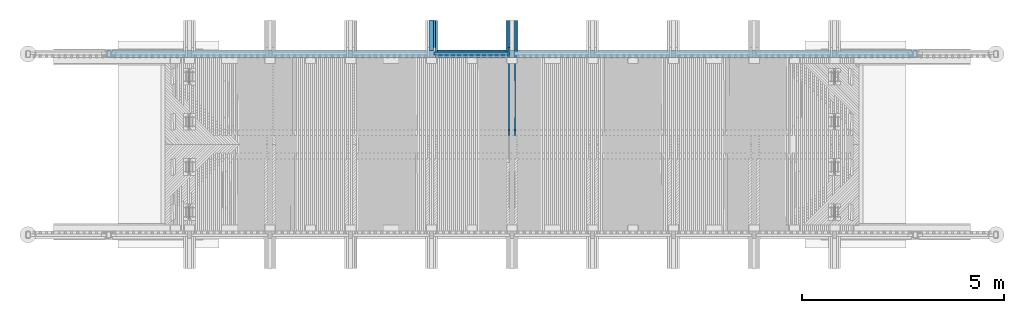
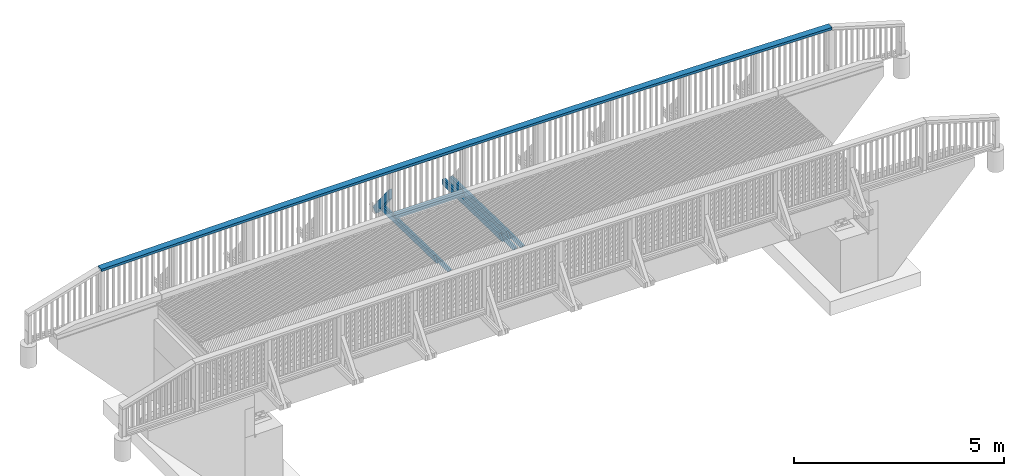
# One storey, part 37 of 53: 11 beams, 1 member.
"""IFC2X3 building model written with IfcOpenShell, lengths in millimetres."""

from ifc_helpers import new_model, si_unit, frame, origin_with_axes, place, context, subcontext, project, spatial, faceted_brep, material, type_object, element, save


model = new_model("IFC2X3")

# Units and contexts
model_context = context("Model", 3, precision=1e-05, world=origin_with_axes())
body_context = subcontext(model_context, "Body", "Model", "MODEL_VIEW")
ifc_project = project(units=[si_unit("LENGTHUNIT", "METRE", prefix="MILLI"), si_unit("AREAUNIT", "SQUARE_METRE"), si_unit("VOLUMEUNIT", "CUBIC_METRE"), si_unit("MASSUNIT", "GRAM", prefix="KILO"), si_unit("TIMEUNIT", "SECOND"), si_unit("PLANEANGLEUNIT", "RADIAN"), si_unit("SOLIDANGLEUNIT", "STERADIAN"), si_unit("THERMODYNAMICTEMPERATUREUNIT", "DEGREE_CELSIUS"), si_unit("LUMINOUSINTENSITYUNIT", "LUMEN")], contexts=[model_context])

# Site, building, storey
site_placement = place(None, origin_with_axes())
site = spatial("IfcSite", under=ifc_project, at=site_placement, Name="Undefined", CompositionType="ELEMENT")
building_placement = place(site_placement, origin_with_axes())
building = spatial("IfcBuilding", under=site, at=building_placement, Name="Undefined", CompositionType="ELEMENT")
storey_placement = place(building_placement, origin_with_axes())
storey = spatial("IfcBuildingStorey", under=building, at=storey_placement, Name="Undefined", CompositionType="ELEMENT", Elevation=0.0)

# Member
ifc_material = material(Name="TIMBER/Timber_Undefined")
member_type = type_object("IfcMemberType", Name="180*100", PredefinedType="NOTDEFINED")
member_placement = place(storey_placement, frame((6000.00641464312, 45378.7683991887, 2950.63480496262), z_axis=(0.0, 0.783926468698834, 0.620853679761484), x_axis=(-4.01699999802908e-06, -0.620853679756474, 0.78392646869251)))
element("IfcMember", 1, at=member_placement, inside=storey, type_object=member_type, material=ifc_material, Name="KAIDEPYLVÄS", ObjectType="180*100", context=body_context, shape_type="Brep", body=[
    faceted_brep([(0.0, 50.0, -89.9999999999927), (0.0, 50.0, 90.0), (1214.99440716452, 50.0, 90.0000000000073), (987.715792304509, 50.0, -89.9999999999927), (0.0, -49.9999999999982, 90.0000000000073), (1214.99480886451, -50.0, 90.0000000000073), (-3.63797880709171e-12, -49.9999999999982, -90.0), (987.716194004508, -49.9999999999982, -89.9999999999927)], [[[0, 1, 2, 3]], [[1, 4, 5, 2]], [[4, 6, 7, 5]], [[6, 0, 3, 7]], [[5, 7, 3, 2]], [[6, 4, 1, 0]]]),
])

# Beams
beam_type_1 = type_object("IfcBeamType", Name="70*70", PredefinedType="NOTDEFINED")
for number, where, z_axis, x_axis, name in (
    (2, (6060.06112513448, 44619.9899854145, 3259.99442729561), (0.0, 1.0, 0.0), (0.999998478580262, 0.0, 0.00174437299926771), "BEAM"),
    (3, (6060.06112513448, 44619.9899854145, 4524.99442729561), (0.0, 1.0, 0.0), (0.999998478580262, 0.0, 0.00174437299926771), "BEAM"),
):
    element("IfcBeam", number, at=place(storey_placement, frame(where, z_axis=z_axis, x_axis=x_axis)), inside=storey, type_object=beam_type_1, material=ifc_material, Name=name, ObjectType="70*70", context=body_context, shape_type="Brep", body=[
        faceted_brep([(-3.63797880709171e-12, 35.0000000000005, -35.0), (-3.63797880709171e-12, 35.0000000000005, 35.0), (1880.00289069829, 35.0, 35.0), (1880.00289069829, 35.0, -35.0), (-3.63797880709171e-12, -34.9999999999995, 35.0), (1880.00289069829, -35.0000000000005, 35.0), (-3.63797880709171e-12, -34.9999999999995, -35.0), (1880.00289069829, -35.0000000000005, -35.0)], [[[0, 1, 2, 3]], [[1, 4, 5, 2]], [[4, 6, 7, 5]], [[6, 0, 3, 7]], [[5, 7, 3, 2]], [[6, 4, 1, 0]]]),
    ])
beam_type_2 = type_object("IfcBeamType", Name="195*40", PredefinedType="NOTDEFINED")
beam_1_placement = place(storey_placement, frame((6059.30077842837, 44612.4899854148, 3205.00226514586), z_axis=(0.0, 1.0, 0.0), x_axis=(0.999998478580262, 0.0, 0.00174437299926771)))
element("IfcBeam", 4, at=beam_1_placement, inside=storey, type_object=beam_type_2, material=ifc_material, Name="BEAM", ObjectType="195*40", context=body_context, shape_type="Brep", body=[
    faceted_brep([(0.0, 20.0, -97.5), (0.0, 20.0, 97.5), (1880.22135781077, 19.9999999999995, 97.5), (1880.22135781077, 19.9999999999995, -97.5), (3.63797880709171e-12, -20.0, 97.5), (1880.22135781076, -20.0000000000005, 97.5), (3.63797880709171e-12, -20.0, -97.5), (1880.22135781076, -20.0000000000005, -97.5)], [[[0, 1, 2, 3]], [[1, 4, 5, 2]], [[4, 6, 7, 5]], [[6, 0, 3, 7]], [[5, 7, 3, 2]], [[6, 4, 1, 0]]]),
])
beam_type_3 = type_object("IfcBeamType", Name="180*70", PredefinedType="NOTDEFINED")
beam_2_placement = place(storey_placement, frame((-2050.58316541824, 44604.987908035, 4514.55540579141), z_axis=(0.0, 1.0, 0.0), x_axis=(1.0, 0.0, 0.0)))
element("IfcBeam", 5, at=beam_2_placement, inside=storey, type_object=beam_type_3, material=ifc_material, Name="YLÄJOHDE", ObjectType="180*70", context=body_context, shape_type="Brep", body=[
    faceted_brep([(402.548160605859, 28.4307633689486, 90.0), (402.548160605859, 28.4307633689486, -90.0), (9.58316613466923, 34.8481648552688, -90.0), (9.58316613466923, 34.8481648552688, 90.0), (401.428487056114, -41.5602812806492, -90.0), (9.58316627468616, -35.1611648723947, -90.0), (401.428487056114, -41.5602812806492, 90.0), (9.58316627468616, -35.1611648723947, 90.0), (803.444421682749, -47.8574786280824, 90.0), (804.517445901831, 22.1342967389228, 90.0), (804.517445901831, 22.1342967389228, -90.0), (803.444421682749, -47.8574786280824, -90.0), (1205.46446410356, -53.8867306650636, -90.0), (1205.46446410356, -53.8867306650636, 90.0), (1206.49083851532, 16.105744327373, 90.0), (1206.49083851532, 16.105744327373, -90.0), (1608.46815988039, 10.3451088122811, -90.0), (1607.4884357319, -59.6480347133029, -90.0), (1607.4884357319, -59.6480347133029, 90.0), (1608.46815988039, 10.3451088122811, 90.0), (2010.44923142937, 4.85239275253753, 90.0), (2010.44923142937, 4.85239275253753, -90.0), (2009.51615797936, -65.1413882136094, -90.0), (2009.51615797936, -65.1413882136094, 90.0), (2411.54745225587, -70.3667887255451, 90.0), (2412.43387459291, -0.372401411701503, 90.0), (2412.43387459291, -0.372401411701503, -90.0), (2411.54745225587, -70.3667887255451, -90.0), (2813.58213996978, -75.3242339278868, -90.0), (2813.58213996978, -75.3242339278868, 90.0), (2814.42191080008, -5.32927135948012, 90.0), (2814.42191080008, -5.32927135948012, -90.0), (3216.41316147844, -10.0182148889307, -90.0), (3215.62004252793, -80.0137216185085, -90.0), (3215.62004252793, -80.0137216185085, 90.0), (3216.41316147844, -10.0182148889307, 90.0), (3618.40744805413, -14.4392299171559, 90.0), (3618.40744805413, -14.4392299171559, -90.0), (3617.66098133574, -84.4352497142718, -90.0), (3617.66098133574, -84.4352497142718, 90.0), (4019.70477779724, -88.5888162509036, 90.0), (4020.40459195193, -18.5923144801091, 90.0), (4020.40459195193, -18.5923144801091, -90.0), (4019.70477779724, -88.5888162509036, -90.0), (4421.75125331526, -92.4744193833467, -90.0), (4421.75125331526, -92.4744193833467, 90.0), (4422.40441459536, -22.4774667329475, 90.0), (4422.40441459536, -22.4774667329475, -90.0), (4824.40673740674, -26.0946849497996, -90.0), (4823.80022929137, -96.0920573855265, -90.0), (4823.80022929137, -96.0920573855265, 90.0), (4824.40673740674, -26.0946849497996, 90.0), (5226.4113818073, -29.4439675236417, 90.0), (5226.4113818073, -29.4439675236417, -90.0), (5225.85152712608, -99.4417286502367, -90.0), (5225.85152712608, -99.4417286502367, 90.0), (5627.90496821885, -102.523431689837, 90.0), (5628.41816921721, -32.5253129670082, 90.0), (5628.41816921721, -32.5253129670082, -90.0), (5627.90496821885, -102.523431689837, -90.0), (6029.96037396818, -105.337165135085, -90.0), (6029.96037396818, -105.337165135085, 90.0), (6030.4269210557, -35.3387199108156, 90.0), (6030.4269210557, -35.3387199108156, -90.0), (6432.43745874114, -37.8841871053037, -90.0), (6432.01756577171, -107.882927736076, -90.0), (6432.01756577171, -107.882927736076, 90.0), (6432.43745874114, -37.8841871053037, 90.0), (6834.4496036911, -40.1617134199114, 90.0), (6834.4496036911, -40.1617134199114, -90.0), (6834.07636502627, -110.160718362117, -90.0), (6834.07636502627, -110.160718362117, 90.0), (7236.136593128, -112.170536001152, 90.0), (7236.46317732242, -42.1712978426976, 90.0), (7236.46317732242, -42.1712978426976, -90.0), (7236.136593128, -112.170536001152, -90.0), (7638.19807147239, -113.912379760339, -90.0), (7638.19807147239, -113.912379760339, 90.0), (7638.47800105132, -43.9129394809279, 90.0), (7638.47800105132, -43.9129394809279, -90.0), (8040.49389629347, -45.3866375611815, -90.0), (8040.26062145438, -115.38624886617, -90.0), (8040.26062145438, -115.38624886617, 90.0), (8040.49389629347, -45.3866375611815, 90.0), (8442.51068446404, -46.5923914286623, 90.0), (8442.51068446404, -46.5923914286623, -90.0), (8442.32406446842, -116.592142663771, -90.0), (8442.32406446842, -116.592142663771, 90.0), (8844.38822190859, -117.530060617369, 90.0), (8844.52818697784, -47.530200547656, 90.0), (8844.52818697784, -47.530200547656, -90.0), (8844.38822190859, -117.530060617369, -90.0), (9246.45291516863, -118.200002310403, -90.0), (9246.45291516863, -118.200002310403, 90.0), (9246.54622524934, -48.2000645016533, 90.0), (9246.54622524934, -48.2000645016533, -90.0), (9648.56462069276, -48.6019829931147, -90.0), (9648.51796564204, -118.601967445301, -90.0), (9648.51796564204, -118.601967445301, 90.0), (9648.56462069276, -48.6019829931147, 90.0), (10050.5831947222, -48.7359558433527, 90.0), (10050.5831947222, -48.7359558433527, -90.0), (10050.5831947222, -118.735955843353, -90.0), (10050.5831947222, -118.735955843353, 90.0), (10452.6484238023, -118.601967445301, 90.0), (10452.6017687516, -48.6019829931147, 90.0), (10452.6017687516, -48.6019829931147, -90.0), (10452.6484238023, -118.601967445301, -90.0), (10854.7134742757, -118.200002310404, -90.0), (10854.7134742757, -118.200002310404, 90.0), (10854.620164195, -48.2000645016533, 90.0), (10854.620164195, -48.2000645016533, -90.0), (11256.6382024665, -47.530200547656, -90.0), (11256.7781675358, -117.530060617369, -90.0), (11256.7781675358, -117.530060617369, 90.0), (11256.6382024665, -47.530200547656, 90.0), (11658.6557049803, -46.5923914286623, 90.0), (11658.6557049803, -46.5923914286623, -90.0), (11658.8423249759, -116.592142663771, -90.0), (11658.8423249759, -116.592142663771, 90.0), (12060.90576799, -115.386248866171, 90.0), (12060.6724931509, -45.3866375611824, 90.0), (12060.6724931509, -45.3866375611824, -90.0), (12060.90576799, -115.386248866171, -90.0), (12462.968317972, -113.912379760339, -90.0), (12462.968317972, -113.912379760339, 90.0), (12462.688388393, -43.9129394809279, 90.0), (12462.688388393, -43.9129394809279, -90.0), (12864.7032121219, -42.1712978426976, -90.0), (12865.0297963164, -112.170536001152, -90.0), (12865.0297963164, -112.170536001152, 90.0), (12864.7032121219, -42.1712978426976, 90.0), (13266.7167857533, -40.1617134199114, 90.0), (13266.7167857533, -40.1617134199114, -90.0), (13267.0900244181, -110.160718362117, -90.0), (13267.0900244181, -110.160718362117, 90.0), (13669.1488236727, -107.882927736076, 90.0), (13668.7289307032, -37.8841871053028, 90.0), (13668.7289307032, -37.8841871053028, -90.0), (13669.1488236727, -107.882927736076, -90.0), (14071.2060154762, -105.337165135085, -90.0), (14071.2060154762, -105.337165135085, 90.0), (14070.7394683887, -35.3387199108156, 90.0), (14070.7394683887, -35.3387199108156, -90.0), (14472.7482202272, -32.5253129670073, -90.0), (14473.2614212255, -102.523431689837, -90.0), (14473.2614212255, -102.523431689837, 90.0), (14472.7482202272, -32.5253129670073, 90.0), (14874.7550076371, -29.4439675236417, 90.0), (14874.7550076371, -29.4439675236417, -90.0), (14875.3148623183, -99.4417286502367, -90.0), (14875.3148623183, -99.4417286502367, 90.0), (15277.366160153, -96.0920573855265, 90.0), (15276.7596520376, -26.0946849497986, 90.0), (15276.7596520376, -26.0946849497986, -90.0), (15277.366160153, -96.0920573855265, -90.0), (15679.4151361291, -92.4744193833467, -90.0), (15679.4151361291, -92.4744193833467, 90.0), (15678.761974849, -22.4774667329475, 90.0), (15678.761974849, -22.4774667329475, -90.0), (16080.7617974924, -18.5923144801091, -90.0), (16081.4616116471, -88.5888162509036, -90.0), (16081.4616116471, -88.5888162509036, 90.0), (16080.7617974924, -18.5923144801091, 90.0), (16482.7589413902, -14.4392299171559, 90.0), (16482.7589413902, -14.4392299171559, -90.0), (16483.5054081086, -84.4352497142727, -90.0), (16483.5054081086, -84.4352497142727, 90.0), (16885.5463469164, -80.0137216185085, 90.0), (16884.7532279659, -10.0182148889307, 90.0), (16884.7532279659, -10.0182148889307, -90.0), (16885.5463469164, -80.0137216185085, -90.0), (17287.5842494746, -75.3242339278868, -90.0), (17287.5842494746, -75.3242339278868, 90.0), (17286.7444786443, -5.32927135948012, 90.0), (17286.7444786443, -5.32927135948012, -90.0), (17688.7325148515, -0.372401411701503, -90.0), (17689.6189371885, -70.3667887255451, -90.0), (17689.6189371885, -70.3667887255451, 90.0), (17688.7325148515, -0.372401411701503, 90.0), (18090.717158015, 4.85239275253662, 90.0), (18090.717158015, 4.85239275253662, -90.0), (18091.650231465, -65.1413882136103, -90.0), (18091.650231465, -65.1413882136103, 90.0), (18493.6779537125, -59.648034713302, 90.0), (18492.698229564, 10.3451088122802, 90.0), (18492.698229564, 10.3451088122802, -90.0), (18493.6779537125, -59.648034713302, -90.0), (18895.7019253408, -53.8867306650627, -90.0), (18895.7019253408, -53.8867306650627, 90.0), (18894.675550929, 16.1057443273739, 90.0), (18894.675550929, 16.1057443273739, -90.0), (19296.6489435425, 22.1342967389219, -90.0), (19297.7219677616, -47.8574786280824, -90.0), (19297.7219677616, -47.8574786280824, 90.0), (19296.6489435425, 22.1342967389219, 90.0), (19698.6182288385, 28.4307633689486, 90.0), (19698.6182288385, 28.4307633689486, -90.0), (19699.7379023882, -41.5602812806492, -90.0), (19699.7379023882, -41.5602812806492, 90.0), (20089.5831647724, -35.1938272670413, 90.0), (20089.5831646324, 34.8155024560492, 90.0), (20089.5831646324, 34.8155024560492, -90.0), (20089.5831647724, -35.1938272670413, -90.0)], [[[0, 1, 2, 3]], [[1, 4, 5, 2]], [[4, 6, 7, 5]], [[2, 5, 7, 3]], [[6, 0, 3, 7]], [[0, 6, 8, 9]], [[1, 0, 9, 10]], [[4, 1, 10, 11]], [[6, 4, 11, 8]], [[8, 11, 12, 13]], [[9, 8, 13, 14]], [[10, 9, 14, 15]], [[11, 10, 15, 12]], [[12, 15, 16, 17]], [[13, 12, 17, 18]], [[14, 13, 18, 19]], [[15, 14, 19, 16]], [[16, 19, 20, 21]], [[17, 16, 21, 22]], [[18, 17, 22, 23]], [[19, 18, 23, 20]], [[20, 23, 24, 25]], [[21, 20, 25, 26]], [[22, 21, 26, 27]], [[23, 22, 27, 24]], [[24, 27, 28, 29]], [[25, 24, 29, 30]], [[26, 25, 30, 31]], [[27, 26, 31, 28]], [[28, 31, 32, 33]], [[29, 28, 33, 34]], [[30, 29, 34, 35]], [[31, 30, 35, 32]], [[32, 35, 36, 37]], [[33, 32, 37, 38]], [[34, 33, 38, 39]], [[35, 34, 39, 36]], [[36, 39, 40, 41]], [[37, 36, 41, 42]], [[38, 37, 42, 43]], [[39, 38, 43, 40]], [[40, 43, 44, 45]], [[41, 40, 45, 46]], [[42, 41, 46, 47]], [[43, 42, 47, 44]], [[44, 47, 48, 49]], [[45, 44, 49, 50]], [[46, 45, 50, 51]], [[47, 46, 51, 48]], [[48, 51, 52, 53]], [[49, 48, 53, 54]], [[50, 49, 54, 55]], [[51, 50, 55, 52]], [[52, 55, 56, 57]], [[53, 52, 57, 58]], [[54, 53, 58, 59]], [[55, 54, 59, 56]], [[56, 59, 60, 61]], [[57, 56, 61, 62]], [[58, 57, 62, 63]], [[59, 58, 63, 60]], [[60, 63, 64, 65]], [[61, 60, 65, 66]], [[62, 61, 66, 67]], [[63, 62, 67, 64]], [[64, 67, 68, 69]], [[65, 64, 69, 70]], [[66, 65, 70, 71]], [[67, 66, 71, 68]], [[68, 71, 72, 73]], [[69, 68, 73, 74]], [[70, 69, 74, 75]], [[71, 70, 75, 72]], [[72, 75, 76, 77]], [[73, 72, 77, 78]], [[74, 73, 78, 79]], [[75, 74, 79, 76]], [[76, 79, 80, 81]], [[77, 76, 81, 82]], [[78, 77, 82, 83]], [[79, 78, 83, 80]], [[80, 83, 84, 85]], [[81, 80, 85, 86]], [[82, 81, 86, 87]], [[83, 82, 87, 84]], [[84, 87, 88, 89]], [[85, 84, 89, 90]], [[86, 85, 90, 91]], [[87, 86, 91, 88]], [[88, 91, 92, 93]], [[89, 88, 93, 94]], [[90, 89, 94, 95]], [[91, 90, 95, 92]], [[92, 95, 96, 97]], [[93, 92, 97, 98]], [[94, 93, 98, 99]], [[95, 94, 99, 96]], [[96, 99, 100, 101]], [[97, 96, 101, 102]], [[98, 97, 102, 103]], [[99, 98, 103, 100]], [[100, 103, 104, 105]], [[101, 100, 105, 106]], [[102, 101, 106, 107]], [[103, 102, 107, 104]], [[104, 107, 108, 109]], [[105, 104, 109, 110]], [[106, 105, 110, 111]], [[107, 106, 111, 108]], [[108, 111, 112, 113]], [[109, 108, 113, 114]], [[110, 109, 114, 115]], [[111, 110, 115, 112]], [[112, 115, 116, 117]], [[113, 112, 117, 118]], [[114, 113, 118, 119]], [[115, 114, 119, 116]], [[116, 119, 120, 121]], [[117, 116, 121, 122]], [[118, 117, 122, 123]], [[119, 118, 123, 120]], [[120, 123, 124, 125]], [[121, 120, 125, 126]], [[122, 121, 126, 127]], [[123, 122, 127, 124]], [[124, 127, 128, 129]], [[125, 124, 129, 130]], [[126, 125, 130, 131]], [[127, 126, 131, 128]], [[128, 131, 132, 133]], [[129, 128, 133, 134]], [[130, 129, 134, 135]], [[131, 130, 135, 132]], [[132, 135, 136, 137]], [[133, 132, 137, 138]], [[134, 133, 138, 139]], [[135, 134, 139, 136]], [[136, 139, 140, 141]], [[137, 136, 141, 142]], [[138, 137, 142, 143]], [[139, 138, 143, 140]], [[140, 143, 144, 145]], [[141, 140, 145, 146]], [[142, 141, 146, 147]], [[143, 142, 147, 144]], [[144, 147, 148, 149]], [[145, 144, 149, 150]], [[146, 145, 150, 151]], [[147, 146, 151, 148]], [[148, 151, 152, 153]], [[149, 148, 153, 154]], [[150, 149, 154, 155]], [[151, 150, 155, 152]], [[152, 155, 156, 157]], [[153, 152, 157, 158]], [[154, 153, 158, 159]], [[155, 154, 159, 156]], [[156, 159, 160, 161]], [[157, 156, 161, 162]], [[158, 157, 162, 163]], [[159, 158, 163, 160]], [[160, 163, 164, 165]], [[161, 160, 165, 166]], [[162, 161, 166, 167]], [[163, 162, 167, 164]], [[164, 167, 168, 169]], [[165, 164, 169, 170]], [[166, 165, 170, 171]], [[167, 166, 171, 168]], [[168, 171, 172, 173]], [[169, 168, 173, 174]], [[170, 169, 174, 175]], [[171, 170, 175, 172]], [[172, 175, 176, 177]], [[173, 172, 177, 178]], [[174, 173, 178, 179]], [[175, 174, 179, 176]], [[176, 179, 180, 181]], [[177, 176, 181, 182]], [[178, 177, 182, 183]], [[179, 178, 183, 180]], [[180, 183, 184, 185]], [[181, 180, 185, 186]], [[182, 181, 186, 187]], [[183, 182, 187, 184]], [[184, 187, 188, 189]], [[185, 184, 189, 190]], [[186, 185, 190, 191]], [[187, 186, 191, 188]], [[188, 191, 192, 193]], [[189, 188, 193, 194]], [[190, 189, 194, 195]], [[191, 190, 195, 192]], [[192, 195, 196, 197]], [[193, 192, 197, 198]], [[194, 193, 198, 199]], [[195, 194, 199, 196]], [[196, 199, 200, 201]], [[197, 196, 201, 202]], [[198, 197, 202, 203]], [[199, 198, 203, 200]], [[202, 201, 200, 203]]]),
])
beam_type_4 = type_object("IfcBeamType", Name="150*50", PredefinedType="NOTDEFINED")
beam_3_placement = place(storey_placement, frame((8125.191946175, 45437.2106524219, 3074.65962161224), z_axis=(0.000209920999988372, 0.0199960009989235, 0.999800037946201), x_axis=(2.76199999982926e-06, -0.999800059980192, 0.0199960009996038)))
element("IfcBeam", 6, at=beam_3_placement, inside=storey, type_object=beam_type_4, material=ifc_material, Name="BEAM", ObjectType="150*50", context=body_context, shape_type="Brep", body=[
    faceted_brep([(1.28420651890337e-08, -24.9999999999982, -74.9999999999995), (1.28420651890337e-08, 25.0000000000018, -75.0), (3298.90492234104, 25.0, -75.0), (3298.90497884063, -24.9999999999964, -75.0), (-1.28347892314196e-08, -24.9999999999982, 75.0), (-1.28347892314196e-08, 25.0, 75.0), (3074.32497546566, 25.0000000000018, 75.0), (3434.49245887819, 25.0, 60.5875365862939), (3434.49251531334, -24.9999999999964, 60.587536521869), (3074.32503029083, -25.0, 75.0000000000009)], [[[0, 1, 2, 3]], [[0, 4, 5, 1]], [[2, 1, 5, 6, 7]], [[3, 2, 7, 8]], [[4, 0, 3, 8, 9]], [[5, 4, 9, 6]], [[8, 7, 6, 9]]]),
])
beam_4_placement = place(storey_placement, frame((8075.17416144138, 45437.2106678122, 3074.67012219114), z_axis=(4.3799000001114e-05, 0.0199960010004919, 0.999800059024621), x_axis=(-3.22000000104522e-07, -0.999800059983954, 0.019996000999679)))
element("IfcBeam", 7, at=beam_4_placement, inside=storey, type_object=beam_type_4, material=ifc_material, Name="BEAM", ObjectType="150*50", context=body_context, shape_type="Brep", body=[
    faceted_brep([(1.28420651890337e-08, -24.9999999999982, -74.9999999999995), (-1.28347892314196e-08, -24.9999999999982, 75.0), (-1.28347892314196e-08, 25.0, 75.0), (1.28420651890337e-08, 25.0000000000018, -75.0), (2713.86933800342, 25.0000000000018, 75.0), (2852.32643692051, 24.9999999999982, -75.0000000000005), (2852.32648139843, -25.0000000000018, -75.0000000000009), (2713.86938248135, -25.0000000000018, 74.9999999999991)], [[[0, 1, 2, 3]], [[3, 2, 4, 5]], [[0, 3, 5, 6]], [[1, 0, 6, 7]], [[2, 1, 7, 4]], [[6, 5, 4, 7]]]),
])
beam_5_placement = place(storey_placement, frame((6125.36076207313, 45437.2106524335, 3071.75363633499), z_axis=(-0.00311234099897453, 0.0199960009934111, 0.999795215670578), x_axis=(-6.36829999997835e-05, -0.999800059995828, 0.0199958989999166)))
element("IfcBeam", 8, at=beam_5_placement, inside=storey, type_object=beam_type_4, material=ifc_material, Name="BEAM", ObjectType="150*50", context=body_context, shape_type="Brep", body=[
    faceted_brep([(1.28420651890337e-08, -24.9999999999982, -74.9999999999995), (1.28420651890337e-08, 25.0000000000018, -75.0), (3298.90492234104, 25.0, -75.0), (3298.90497884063, -24.9999999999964, -75.0), (-1.28347892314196e-08, -24.9999999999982, 75.0), (-1.28347892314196e-08, 25.0, 75.0), (3074.32497546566, 25.0000000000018, 75.0), (3434.49245887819, 25.0, 60.5875365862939), (3434.49251531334, -24.9999999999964, 60.587536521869), (3074.32503029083, -25.0, 75.0000000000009)], [[[0, 1, 2, 3]], [[0, 4, 5, 1]], [[2, 1, 5, 6, 7]], [[3, 2, 7, 8]], [[4, 0, 3, 8, 9]], [[5, 4, 9, 6]], [[8, 7, 6, 9]]]),
])
beam_6_placement = place(storey_placement, frame((6075.34321859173, 45437.2106678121, 3071.59793145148), z_axis=(-0.00327846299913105, 0.0199960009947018, 0.999794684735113), x_axis=(-6.67669999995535e-05, -0.999800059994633, 0.0199958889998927)))
element("IfcBeam", 9, at=beam_6_placement, inside=storey, type_object=beam_type_4, material=ifc_material, Name="BEAM", ObjectType="150*50", context=body_context, shape_type="Brep", body=[
    faceted_brep([(1.28420651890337e-08, -24.9999999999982, -74.9999999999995), (-1.28347892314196e-08, -24.9999999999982, 75.0), (-1.28347892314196e-08, 25.0, 75.0), (1.28420651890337e-08, 25.0000000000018, -75.0), (2852.32643692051, 24.9999999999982, -75.0000000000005), (2852.32648139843, -25.0000000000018, -75.0000000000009), (2713.86938248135, -25.0000000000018, 74.9999999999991), (2713.86933800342, 25.0000000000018, 75.0)], [[[0, 1, 2, 3]], [[0, 3, 4, 5]], [[1, 0, 5, 6]], [[2, 1, 6, 7]], [[3, 2, 7, 4]], [[5, 4, 7, 6]]]),
])
beam_7_placement = place(storey_placement, frame((7875.13184976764, 45437.2106832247, 3074.66226279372), z_axis=(-0.000288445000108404, 0.0199960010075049, 0.99980001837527), x_axis=(-4.53599999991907e-06, -0.99980005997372, 0.0199960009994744)))
element("IfcBeam", 10, at=beam_7_placement, inside=storey, type_object=beam_type_4, material=ifc_material, Name="BEAM", ObjectType="150*50", context=body_context, shape_type="Brep", body=[
    faceted_brep([(1.28420651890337e-08, -24.9999999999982, -74.9999999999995), (-1.28347892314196e-08, -24.9999999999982, 75.0), (-1.28347892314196e-08, 25.0, 75.0), (1.28420651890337e-08, 25.0000000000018, -75.0), (2713.86939704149, 24.9999999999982, 75.0000000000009), (2852.32649585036, 25.0, -74.9999999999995), (2852.32641872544, -25.0, -74.9999999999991), (2713.86931991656, -25.0, 75.0)], [[[0, 1, 2, 3]], [[3, 2, 4, 5]], [[0, 3, 5, 6]], [[1, 0, 6, 7]], [[2, 1, 7, 4]], [[6, 5, 4, 7]]]),
])
beam_8_placement = place(storey_placement, frame((7925.15412947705, 45437.2106678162, 3074.66838484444), z_axis=(-0.000122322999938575, 0.0199960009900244, 0.999800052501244), x_axis=(-2.7550000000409e-06, -0.999800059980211, 0.0199960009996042)))
element("IfcBeam", 11, at=beam_8_placement, inside=storey, type_object=beam_type_4, material=ifc_material, Name="BEAM", ObjectType="150*50", context=body_context, shape_type="Brep", body=[
    faceted_brep([(1.28420651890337e-08, -24.9999999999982, -74.9999999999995), (1.28420651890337e-08, 25.0000000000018, -75.0), (3298.90492234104, 25.0, -75.0), (3298.90497884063, -24.9999999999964, -75.0), (-1.28347892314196e-08, -24.9999999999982, 75.0), (-1.28347892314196e-08, 25.0, 75.0), (3074.32503673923, 25.0000000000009, 75.0), (3434.49245887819, 25.0, 60.5875365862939), (3434.49251531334, -24.9999999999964, 60.587536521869), (3074.32503029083, -25.0, 75.0000000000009)], [[[0, 1, 2, 3]], [[0, 4, 5, 1]], [[2, 1, 5, 6, 7]], [[3, 2, 7, 8]], [[4, 0, 3, 8, 9]], [[5, 4, 9, 6]], [[8, 7, 6, 9]]]),
])
beam_9_placement = place(storey_placement, frame((7925.15058060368, 44771.443807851, 3087.98372204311), z_axis=(-0.000122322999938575, 0.0199960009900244, 0.999800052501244), x_axis=(-2.7550000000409e-06, -0.999800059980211, 0.0199960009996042)))
element("IfcBeam", 12, at=beam_9_placement, inside=storey, type_object=beam_type_4, material=ifc_material, Name="BEAM", ObjectType="150*50", context=body_context, shape_type="Brep", body=[
    faceted_brep([(1.28420651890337e-08, -24.9999999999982, -74.9999999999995), (-1.28347892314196e-08, -24.9999999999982, 75.0), (-1.28347892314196e-08, 25.0, 75.0), (1.28420651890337e-08, 25.0000000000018, -75.0), (2047.96936762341, 24.9999999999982, 75.0000000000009), (2186.42646645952, 24.9999999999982, -74.9999999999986), (2186.42645112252, -25.0000000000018, -74.9999999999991), (2047.96935228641, -25.0000000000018, 75.0000000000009)], [[[0, 1, 2, 3]], [[3, 2, 4, 5]], [[0, 3, 5, 6]], [[1, 0, 6, 7]], [[2, 1, 7, 4]], [[6, 5, 4, 7]]]),
])

save(model, "model.ifc")
